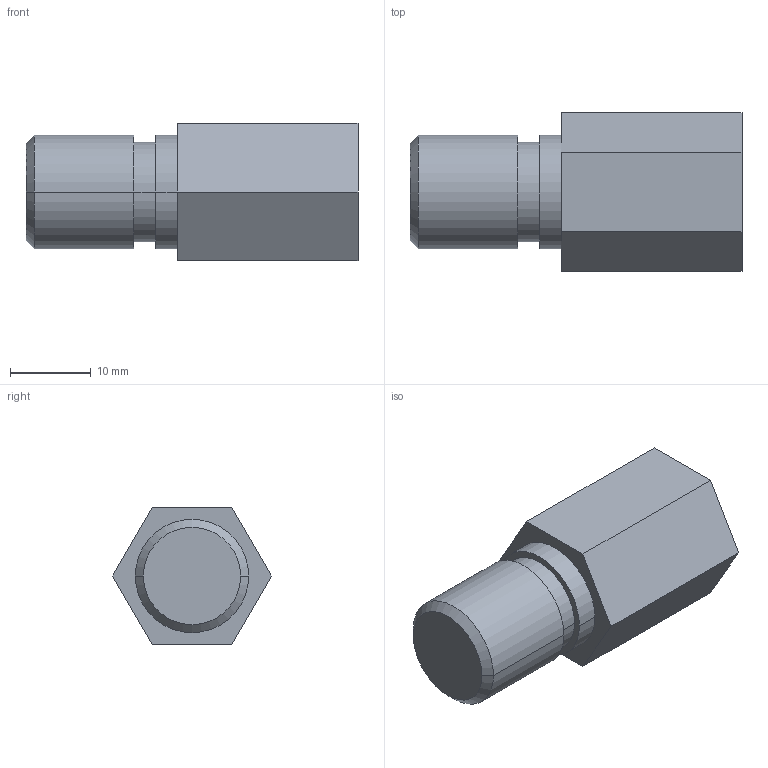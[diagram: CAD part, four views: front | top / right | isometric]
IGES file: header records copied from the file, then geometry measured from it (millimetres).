
Global section: file name: No Iges File Name specified; native system: Autodesk Inventor 2009; preprocessor: AutoDesk Inventor Iges Exporter R2009; author: y-shimohigashi; date: 20080703.162941; units: millimetre
Bounding box: 41 x 19.63 x 17 mm (x, y, z)
Volume: 6593.1 mm3; surface area: 3183.3 mm2
Topology: 1 solids, 1 shells, 22 faces, 46 edges, 30 vertices
Faces by surface type: plane 12, cylinder 6, cone 2, revolution 2
